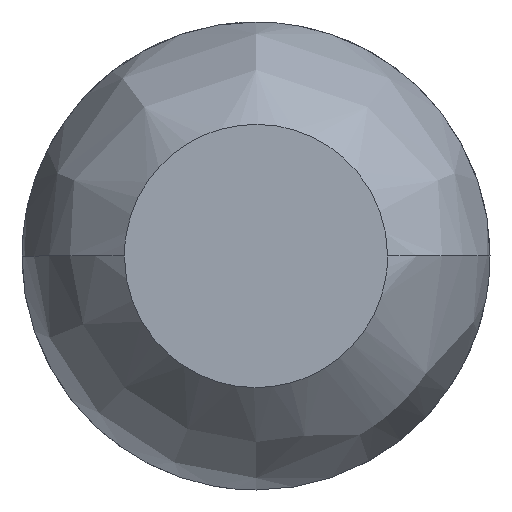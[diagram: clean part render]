
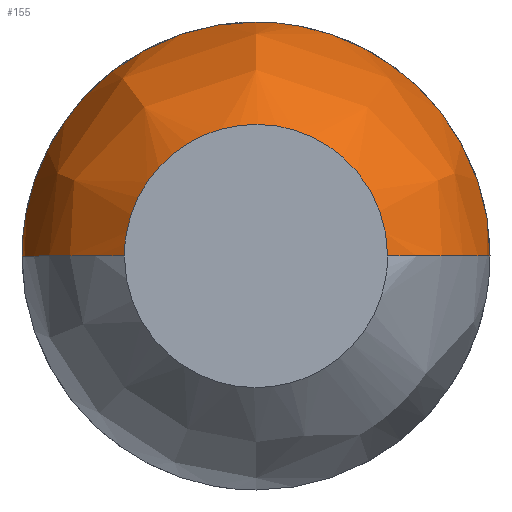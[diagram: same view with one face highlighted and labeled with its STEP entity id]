
A CAD part, left-side view. The second image highlights one B-rep face of the part: STEP entity #155.
In plain terms, the highlighted free-form (B-spline) face has degree [3, 3] with [4, 4] control points.
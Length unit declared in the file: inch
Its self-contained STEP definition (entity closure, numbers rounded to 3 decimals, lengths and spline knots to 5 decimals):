
#20 = CARTESIAN_POINT ( 'NONE',  ( 0.03307, -0.04, 0. ) ) ;
#25 = CARTESIAN_POINT ( 'NONE',  ( 0., -0.01169, 0.02013 ) ) ;
#30 = CARTESIAN_POINT ( 'NONE',  ( 0., 0.01169, 0.02013 ) ) ;
#38 = CARTESIAN_POINT ( 'NONE',  ( 0.0076, -0.03368, 0. ) ) ;
#39 = VERTEX_POINT ( 'NONE', #217 ) ;
#49 = CARTESIAN_POINT ( 'NONE',  ( 0.0076, -0.03368, 0. ) ) ;
#61 =( BOUNDED_CURVE ( )  B_SPLINE_CURVE ( 3, ( #141, #226, #49, #303 ),
 .UNSPECIFIED., .F., .T. ) 
 B_SPLINE_CURVE_WITH_KNOTS ( ( 4, 4 ),
 ( -0.97339, 0. ),
 .UNSPECIFIED. ) 
 CURVE ( )  GEOMETRIC_REPRESENTATION_ITEM ( )  RATIONAL_B_SPLINE_CURVE ( ( 1., 0.923, 0.923, 1. ) ) 
 REPRESENTATION_ITEM ( '' )  );
#77 = B_SPLINE_CURVE_WITH_KNOTS ( 'NONE', 3,
 ( #291, #342, #301, #25, #518, #212, #30, #134, #338, #248 ),
 .UNSPECIFIED., .F., .F.,
 ( 4, 2, 2, 2, 4 ),
 ( 0., 0.7854, 1.5708, 2.35619, 3.14159 ),
 .UNSPECIFIED. ) ;
#82 = CARTESIAN_POINT ( 'NONE',  ( 0.0076, 0.03368, 0. ) ) ;
#86 =( BOUNDED_SURFACE ( )  B_SPLINE_SURFACE ( 3, 3, ( 
 ( #259, #431, #222, #216 ),
 ( #562, #162, #346, #384 ),
 ( #38, #466, #129, #82 ),
 ( #423, #295, #255, #387 ) ),
 .UNSPECIFIED., .F., .F., .F. ) 
 B_SPLINE_SURFACE_WITH_KNOTS ( ( 4, 4 ),
 ( 4, 4 ),
 ( 0., 1. ),
 ( 0., 1. ),
 .UNSPECIFIED. ) 
 GEOMETRIC_REPRESENTATION_ITEM ( )  RATIONAL_B_SPLINE_SURFACE ( (
 ( 1., 0.333, 0.333, 1.),
 ( 0.923, 0.308, 0.308, 0.923),
 ( 0.923, 0.308, 0.308, 0.923),
 ( 1., 0.333, 0.333, 1.) ) ) 
 REPRESENTATION_ITEM ( '' )  SURFACE ( )  );
#93 = EDGE_CURVE ( 'NONE', #39, #446, #61, .T. ) ;
#96 = CARTESIAN_POINT ( 'NONE',  ( 0.03307, 0.04, 0. ) ) ;
#129 = CARTESIAN_POINT ( 'NONE',  ( 0.0076, 0.03368, 0.06735 ) ) ;
#134 = CARTESIAN_POINT ( 'NONE',  ( 0., 0.02013, 0.01169 ) ) ;
#141 = CARTESIAN_POINT ( 'NONE',  ( 0.03307, -0.04, 0. ) ) ;
#142 = CARTESIAN_POINT ( 'NONE',  ( 0., 0.0225, 0. ) ) ;
#152 = EDGE_LOOP ( 'NONE', ( #417, #510, #543, #567, #365 ) ) ;
#155 = ADVANCED_FACE ( 'NONE', ( #566 ), #86, .F. ) ;
#161 =( BOUNDED_CURVE ( )  B_SPLINE_CURVE ( 3, ( #331, #515, #208, #249 ),
 .UNSPECIFIED., .F., .T. ) 
 B_SPLINE_CURVE_WITH_KNOTS ( ( 4, 4 ),
 ( -1.5708, 0. ),
 .UNSPECIFIED. ) 
 CURVE ( )  GEOMETRIC_REPRESENTATION_ITEM ( )  RATIONAL_B_SPLINE_CURVE ( ( 1., 0.805, 0.805, 1. ) ) 
 REPRESENTATION_ITEM ( '' )  );
#162 = CARTESIAN_POINT ( 'NONE',  ( 0.01955, -0.04, 0.08 ) ) ;
#165 = EDGE_CURVE ( 'NONE', #504, #215, #161, .T. ) ;
#185 = CARTESIAN_POINT ( 'NONE',  ( 0.01955, 0.04, 0. ) ) ;
#189 = CARTESIAN_POINT ( 'NONE',  ( 0.0076, 0.03368, 0. ) ) ;
#208 = CARTESIAN_POINT ( 'NONE',  ( 0.03307, 0.04, 0.02343 ) ) ;
#212 = CARTESIAN_POINT ( 'NONE',  ( 0., 0.00597, 0.0225 ) ) ;
#215 = VERTEX_POINT ( 'NONE', #96 ) ;
#216 = CARTESIAN_POINT ( 'NONE',  ( 0.03307, 0.04, 0. ) ) ;
#217 = CARTESIAN_POINT ( 'NONE',  ( 0.03307, -0.04, 0. ) ) ;
#222 = CARTESIAN_POINT ( 'NONE',  ( 0.03307, 0.04, 0.08 ) ) ;
#226 = CARTESIAN_POINT ( 'NONE',  ( 0.01955, -0.04, 0. ) ) ;
#248 = CARTESIAN_POINT ( 'NONE',  ( 0., 0.0225, 0. ) ) ;
#249 = CARTESIAN_POINT ( 'NONE',  ( 0.03307, 0.04, 0. ) ) ;
#255 = CARTESIAN_POINT ( 'NONE',  ( 0., 0.0225, 0.045 ) ) ;
#259 = CARTESIAN_POINT ( 'NONE',  ( 0.03307, -0.04, 0. ) ) ;
#276 = CARTESIAN_POINT ( 'NONE',  ( 0.03307, -0.04, 0.02343 ) ) ;
#291 = CARTESIAN_POINT ( 'NONE',  ( 0., -0.0225, 0. ) ) ;
#295 = CARTESIAN_POINT ( 'NONE',  ( 0., -0.0225, 0.045 ) ) ;
#301 = CARTESIAN_POINT ( 'NONE',  ( 0., -0.02013, 0.01169 ) ) ;
#303 = CARTESIAN_POINT ( 'NONE',  ( 0., -0.0225, 0. ) ) ;
#315 = CARTESIAN_POINT ( 'NONE',  ( 0.03307, 0.04, 0. ) ) ;
#325 = EDGE_CURVE ( 'NONE', #39, #504, #394, .T. ) ;
#330 = CARTESIAN_POINT ( 'NONE',  ( 0., -0.0225, 0. ) ) ;
#331 = CARTESIAN_POINT ( 'NONE',  ( 0.03307, 0., 0.04 ) ) ;
#338 = CARTESIAN_POINT ( 'NONE',  ( 0., 0.0225, 0.00597 ) ) ;
#342 = CARTESIAN_POINT ( 'NONE',  ( 0., -0.0225, 0.00597 ) ) ;
#346 = CARTESIAN_POINT ( 'NONE',  ( 0.01955, 0.04, 0.08 ) ) ;
#365 = ORIENTED_EDGE ( 'NONE', *, *, #93, .F. ) ;
#378 = CARTESIAN_POINT ( 'NONE',  ( 0.03307, 0., 0.04 ) ) ;
#384 = CARTESIAN_POINT ( 'NONE',  ( 0.01955, 0.04, 0. ) ) ;
#387 = CARTESIAN_POINT ( 'NONE',  ( 0., 0.0225, 0. ) ) ;
#394 =( BOUNDED_CURVE ( )  B_SPLINE_CURVE ( 3, ( #20, #276, #505, #546 ),
 .UNSPECIFIED., .F., .F. ) 
 B_SPLINE_CURVE_WITH_KNOTS ( ( 4, 4 ),
 ( -1.5708, 0. ),
 .UNSPECIFIED. ) 
 CURVE ( )  GEOMETRIC_REPRESENTATION_ITEM ( )  RATIONAL_B_SPLINE_CURVE ( ( 1., 0.805, 0.805, 1. ) ) 
 REPRESENTATION_ITEM ( '' )  );
#417 = ORIENTED_EDGE ( 'NONE', *, *, #325, .T. ) ;
#423 = CARTESIAN_POINT ( 'NONE',  ( 0., -0.0225, 0. ) ) ;
#431 = CARTESIAN_POINT ( 'NONE',  ( 0.03307, -0.04, 0.08 ) ) ;
#446 = VERTEX_POINT ( 'NONE', #330 ) ;
#452 =( BOUNDED_CURVE ( )  B_SPLINE_CURVE ( 3, ( #142, #189, #185, #315 ),
 .UNSPECIFIED., .F., .F. ) 
 B_SPLINE_CURVE_WITH_KNOTS ( ( 4, 4 ),
 ( -0.97339, 0. ),
 .UNSPECIFIED. ) 
 CURVE ( )  GEOMETRIC_REPRESENTATION_ITEM ( )  RATIONAL_B_SPLINE_CURVE ( ( 1., 0.923, 0.923, 1. ) ) 
 REPRESENTATION_ITEM ( '' )  );
#466 = CARTESIAN_POINT ( 'NONE',  ( 0.0076, -0.03368, 0.06735 ) ) ;
#469 = CARTESIAN_POINT ( 'NONE',  ( 0., 0.0225, 0. ) ) ;
#472 = EDGE_CURVE ( 'NONE', #446, #512, #77, .T. ) ;
#504 = VERTEX_POINT ( 'NONE', #378 ) ;
#505 = CARTESIAN_POINT ( 'NONE',  ( 0.03307, -0.02343, 0.04 ) ) ;
#510 = ORIENTED_EDGE ( 'NONE', *, *, #165, .T. ) ;
#512 = VERTEX_POINT ( 'NONE', #469 ) ;
#515 = CARTESIAN_POINT ( 'NONE',  ( 0.03307, 0.02343, 0.04 ) ) ;
#518 = CARTESIAN_POINT ( 'NONE',  ( 0., -0.00597, 0.0225 ) ) ;
#543 = ORIENTED_EDGE ( 'NONE', *, *, #564, .F. ) ;
#546 = CARTESIAN_POINT ( 'NONE',  ( 0.03307, 0., 0.04 ) ) ;
#562 = CARTESIAN_POINT ( 'NONE',  ( 0.01955, -0.04, 0. ) ) ;
#564 = EDGE_CURVE ( 'NONE', #512, #215, #452, .T. ) ;
#566 = FACE_OUTER_BOUND ( 'NONE', #152, .T. ) ;
#567 = ORIENTED_EDGE ( 'NONE', *, *, #472, .F. ) ;
